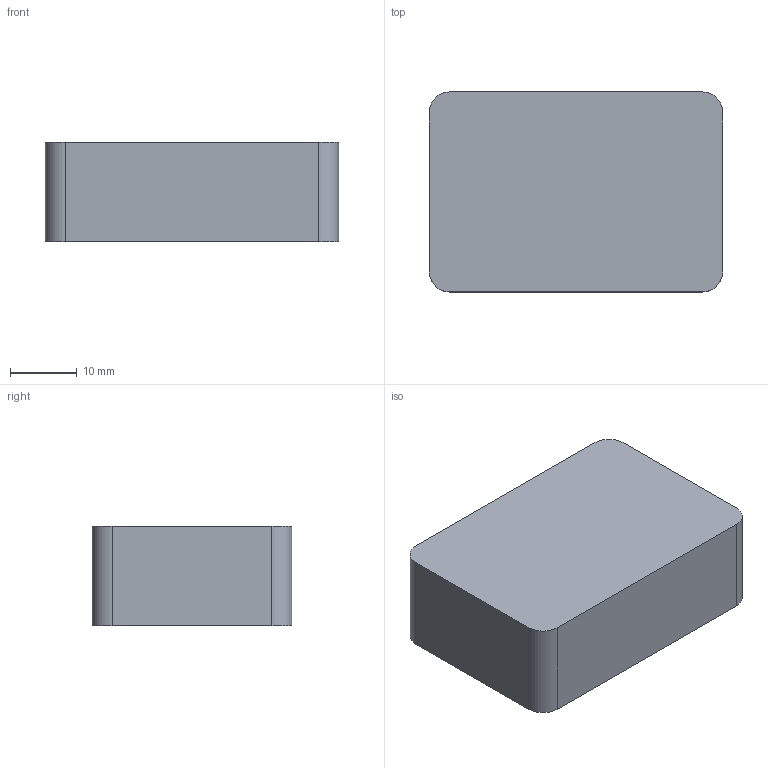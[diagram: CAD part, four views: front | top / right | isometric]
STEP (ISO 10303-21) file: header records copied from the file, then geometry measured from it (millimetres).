
FILE_DESCRIPTION(('FreeCAD Model'),'2;1');
FILE_NAME('Open CASCADE Shape Model','2026-10-31T13:49:49',('FreeCAD'),( 'FreeCAD'),'Open CASCADE STEP processor 7.8','FreeCAD','Unknown');
FILE_SCHEMA(('AUTOMOTIVE_DESIGN { 1 0 10303 214 1 1 1 1 }'));
Length unit declared in the file: millimetre
Products named in the file (1): Open CASCADE STEP translator 7.8 17
Bounding box: 44 x 30 x 15 mm (x, y, z)
Volume: 6884.1 mm3; surface area: 6406.3 mm2
Topology: 1 solids, 1 shells, 19 faces, 48 edges, 32 vertices
Faces by surface type: plane 15, cylinder 4
Entity records: 584 total; most frequent: CARTESIAN_POINT 100, DIRECTION 96, ORIENTED_EDGE 96, EDGE_CURVE 48, LINE 40, VECTOR 40, VERTEX_POINT 32, AXIS2_PLACEMENT_3D 28
